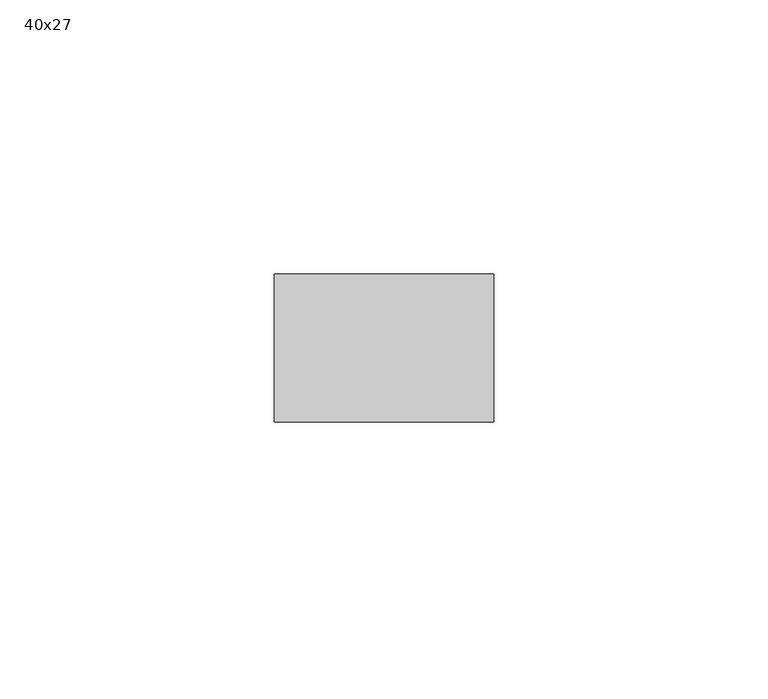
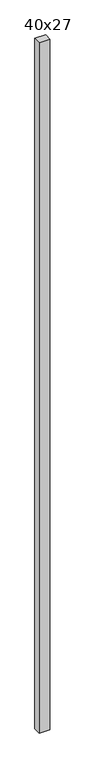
"""IFC4 building model written with IfcOpenShell, lengths in millimetres: column geometry, Bois - Bois de construction de dimensions courantes : 40x27."""

from ifc_helpers import new_model, si_unit, origin, origin_with_axes, place, context, project, spatial, polyline, outline, extrude, source, transform, mapped, element, save


def column_40x27_67a25514(model_context):
    return source(origin(), model_context, "Body", "SweptSolid", [
        extrude(outline(polyline([(20.0, 13.5), (20.0, -13.5), (-20.0, -13.5), (-20.0, 13.5), (20.0, 13.5)])), origin_with_axes(), (0.0, 0.0, 1.0), 2750.0),
    ])


if __name__ == "__main__":
    model = new_model("IFC4")
    model_context = context("Model", 3, world=origin())
    ifc_project = project(units=[si_unit("LENGTHUNIT", "METRE", prefix="MILLI")], contexts=[model_context])
    site = spatial("IfcSite", under=ifc_project)
    building = spatial("IfcBuilding", under=site)
    placement = place(None, origin())
    column_40x27_shape = column_40x27_67a25514(model_context)
    element("IfcColumn", 1, ObjectType="Bois - Bois de construction de dimensions courantes : 40x27", at=placement, inside=building, context=model_context, shape_type="MappedRepresentation", body=[
        mapped(column_40x27_shape, transform((0.0, 0.0, 0.0), x_axis=(1.0, 0.0, 0.0), y_axis=(0.0, 1.0, 0.0), z_axis=(0.0, 0.0, 1.0))),
    ])
    save(model, "model.ifc")
